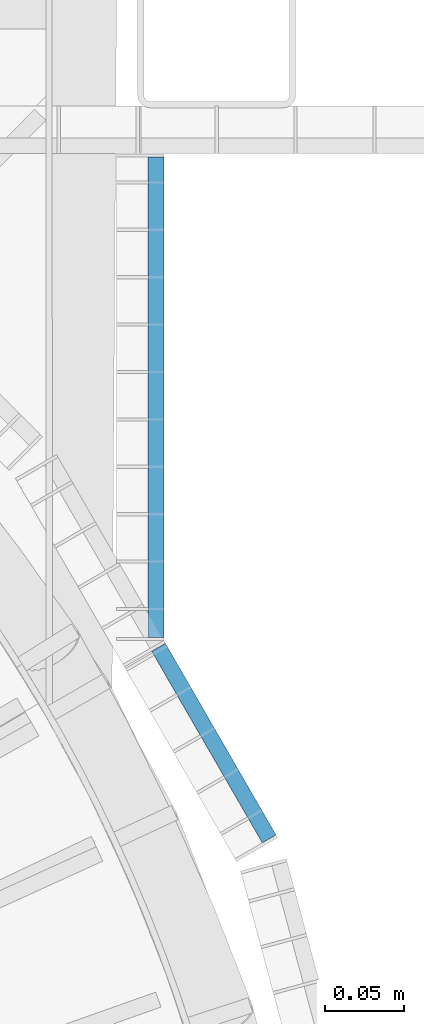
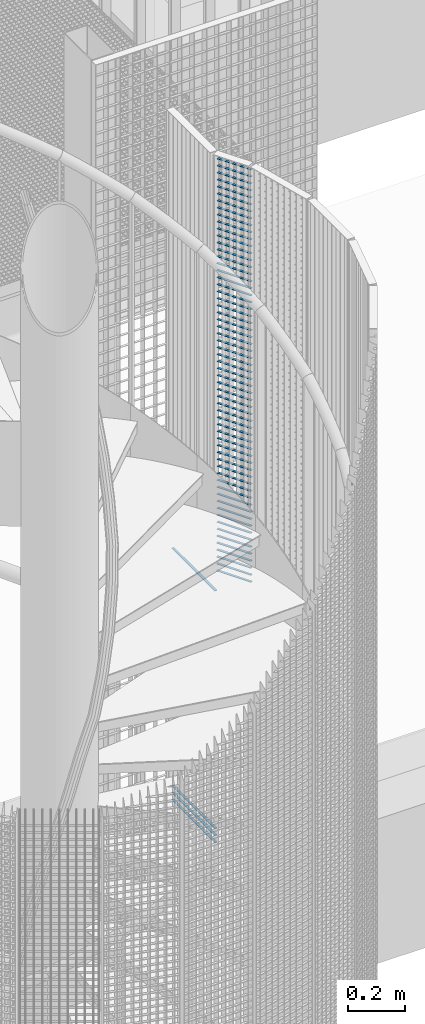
# One storey, part 274 of 1183: 64 beams, 2 elements without a shape of their own.
"""IFC2X3 building model written with IfcOpenShell, lengths in millimetres."""

from ifc_helpers import new_model, si_unit, frame, origin_with_axes, origin_2d_with_axis, place, context, subcontext, project, spatial, rectangle, extrude, material, type_object, element, aggregate, save


model = new_model("IFC2X3")

# Units and contexts
model_context = context("Model", 3, precision=1e-05, world=origin_with_axes())
body_context = subcontext(model_context, "Body", "Model", "MODEL_VIEW")
ifc_project = project(units=[si_unit("LENGTHUNIT", "METRE", prefix="MILLI"), si_unit("AREAUNIT", "SQUARE_METRE"), si_unit("VOLUMEUNIT", "CUBIC_METRE"), si_unit("MASSUNIT", "GRAM", prefix="KILO"), si_unit("TIMEUNIT", "SECOND"), si_unit("PLANEANGLEUNIT", "RADIAN"), si_unit("SOLIDANGLEUNIT", "STERADIAN"), si_unit("THERMODYNAMICTEMPERATUREUNIT", "DEGREE_CELSIUS"), si_unit("LUMINOUSINTENSITYUNIT", "LUMEN")], contexts=[model_context])

# Site, building, storey
site_placement = place(None, origin_with_axes())
site = spatial("IfcSite", under=ifc_project, at=site_placement, Name="Undefined", CompositionType="ELEMENT")
building_placement = place(site_placement, origin_with_axes())
building = spatial("IfcBuilding", under=site, at=building_placement, Name="Undefined", CompositionType="ELEMENT")
storey_placement = place(building_placement, origin_with_axes())
storey = spatial("IfcBuildingStorey", under=building, at=storey_placement, Name="Undefined", CompositionType="ELEMENT", Elevation=0.0)

# Assembly, beams
assembly_1_placement = place(storey_placement, origin_with_axes())
assembly_1 = element("IfcElementAssembly", 1, at=assembly_1_placement, inside=storey, Name="BORDURE", AssemblyPlace="NOTDEFINED", PredefinedType="NOTDEFINED")
ifc_material = material(Name="STEEL/S235JR")
beam_type = type_object("IfcBeamType", Name="PL2*10", PredefinedType="NOTDEFINED")
beam_1_placement = place(assembly_1_placement, frame((961.586915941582, 564.78266928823, 15090.0), z_axis=(1.0, 0.0, 0.0), x_axis=(0.0, 1.0, 0.0)))
beam_1 = element("IfcBeam", 2, at=beam_1_placement, type_object=beam_type, material=ifc_material, Name="ENTRETOISE", context=body_context, shape_type="SweptSolid", body=[
    extrude(rectangle(XDim=2.0, YDim=10.0, at=origin_2d_with_axis()), frame((303.999999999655, 0.0, 0.0), z_axis=(-1.0, 0.0, 0.0), x_axis=(0.0, -1.0, 0.0)), (0.0, 0.0, 1.0), 304.0),
])
beam_2_placement = place(assembly_1_placement, frame((961.586915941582, 564.78266928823, 15060.0), z_axis=(1.0, 0.0, 0.0), x_axis=(0.0, 1.0, 0.0)))
beam_2 = element("IfcBeam", 3, at=beam_2_placement, type_object=beam_type, material=ifc_material, Name="ENTRETOISE", context=body_context, shape_type="SweptSolid", body=[
    extrude(rectangle(XDim=2.0, YDim=10.0, at=origin_2d_with_axis()), frame((303.999999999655, 0.0, 0.0), z_axis=(-1.0, 0.0, 0.0), x_axis=(0.0, -1.0, 0.0)), (0.0, 0.0, 1.0), 304.0),
])
beam_3_placement = place(assembly_1_placement, frame((961.586915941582, 564.782669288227, 16110.0), z_axis=(1.0, 0.0, 0.0), x_axis=(0.0, 1.0, 0.0)))
beam_3 = element("IfcBeam", 4, at=beam_3_placement, type_object=beam_type, material=ifc_material, Name="ENTRETOISE", context=body_context, shape_type="SweptSolid", body=[
    extrude(rectangle(XDim=2.0, YDim=10.0, at=origin_2d_with_axis()), frame((303.999999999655, 0.0, 0.0), z_axis=(-1.0, 0.0, 0.0), x_axis=(0.0, -1.0, 0.0)), (0.0, 0.0, 1.0), 304.0),
])
beam_4_placement = place(assembly_1_placement, frame((961.586915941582, 564.782669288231, 15030.0), z_axis=(1.0, 0.0, 0.0), x_axis=(0.0, 1.0, 0.0)))
beam_4 = element("IfcBeam", 5, at=beam_4_placement, type_object=beam_type, material=ifc_material, Name="ENTRETOISE", context=body_context, shape_type="SweptSolid", body=[
    extrude(rectangle(XDim=2.0, YDim=10.0, at=origin_2d_with_axis()), frame((303.999999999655, 0.0, 0.0), z_axis=(-1.0, 0.0, 0.0), x_axis=(0.0, -1.0, 0.0)), (0.0, 0.0, 1.0), 304.0),
])
aggregate(assembly_1, [beam_1, beam_2, beam_3, beam_4])

assembly_2_placement = place(storey_placement, origin_with_axes())
assembly_2 = element("IfcElementAssembly", 6, at=assembly_2_placement, inside=storey, Name="BORDURE", AssemblyPlace="NOTDEFINED", PredefinedType="NOTDEFINED")
beam_5_placement = place(assembly_2_placement, frame((1033.29994283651, 437.231999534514, 17970.0), z_axis=(0.866030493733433, 0.499991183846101, 0.0), x_axis=(-0.499991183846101, 0.866030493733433, 0.0)))
beam_5 = element("IfcBeam", 7, at=beam_5_placement, type_object=beam_type, material=ifc_material, Name="ENTRETOISE", context=body_context, shape_type="SweptSolid", body=[
    extrude(rectangle(XDim=2.0, YDim=10.0, at=origin_2d_with_axis()), frame((140.102470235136, 0.0, 0.0), z_axis=(-1.0, 0.0, 0.0), x_axis=(0.0, -1.0, 0.0)), (0.0, 0.0, 1.0), 140.1),
])
beam_6_placement = place(assembly_2_placement, frame((1033.29994283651, 437.231999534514, 17940.0), z_axis=(0.866030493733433, 0.499991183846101, 0.0), x_axis=(-0.499991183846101, 0.866030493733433, 0.0)))
beam_6 = element("IfcBeam", 8, at=beam_6_placement, type_object=beam_type, material=ifc_material, Name="ENTRETOISE", context=body_context, shape_type="SweptSolid", body=[
    extrude(rectangle(XDim=2.0, YDim=10.0, at=origin_2d_with_axis()), frame((140.102470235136, 0.0, 0.0), z_axis=(-1.0, 0.0, 0.0), x_axis=(0.0, -1.0, 0.0)), (0.0, 0.0, 1.0), 140.1),
])
beam_7_placement = place(assembly_2_placement, frame((1033.29994283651, 437.231999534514, 17910.0), z_axis=(0.866030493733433, 0.499991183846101, 0.0), x_axis=(-0.499991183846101, 0.866030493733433, 0.0)))
beam_7 = element("IfcBeam", 9, at=beam_7_placement, type_object=beam_type, material=ifc_material, Name="ENTRETOISE", context=body_context, shape_type="SweptSolid", body=[
    extrude(rectangle(XDim=2.0, YDim=10.0, at=origin_2d_with_axis()), frame((140.102470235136, 0.0, 0.0), z_axis=(-1.0, 0.0, 0.0), x_axis=(0.0, -1.0, 0.0)), (0.0, 0.0, 1.0), 140.1),
])
beam_8_placement = place(assembly_2_placement, frame((1033.29994283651, 437.231999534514, 17880.0), z_axis=(0.866030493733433, 0.499991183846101, 0.0), x_axis=(-0.499991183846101, 0.866030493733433, 0.0)))
beam_8 = element("IfcBeam", 10, at=beam_8_placement, type_object=beam_type, material=ifc_material, Name="ENTRETOISE", context=body_context, shape_type="SweptSolid", body=[
    extrude(rectangle(XDim=2.0, YDim=10.0, at=origin_2d_with_axis()), frame((140.102470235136, 0.0, 0.0), z_axis=(-1.0, 0.0, 0.0), x_axis=(0.0, -1.0, 0.0)), (0.0, 0.0, 1.0), 140.1),
])
beam_9_placement = place(assembly_2_placement, frame((1033.29994283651, 437.231999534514, 17850.0), z_axis=(0.866030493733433, 0.499991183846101, 0.0), x_axis=(-0.499991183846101, 0.866030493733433, 0.0)))
beam_9 = element("IfcBeam", 11, at=beam_9_placement, type_object=beam_type, material=ifc_material, Name="ENTRETOISE", context=body_context, shape_type="SweptSolid", body=[
    extrude(rectangle(XDim=2.0, YDim=10.0, at=origin_2d_with_axis()), frame((140.102470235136, 0.0, 0.0), z_axis=(-1.0, 0.0, 0.0), x_axis=(0.0, -1.0, 0.0)), (0.0, 0.0, 1.0), 140.1),
])
beam_10_placement = place(assembly_2_placement, frame((1033.29994283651, 437.231999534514, 17820.0), z_axis=(0.866030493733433, 0.499991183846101, 0.0), x_axis=(-0.499991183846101, 0.866030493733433, 0.0)))
beam_10 = element("IfcBeam", 12, at=beam_10_placement, type_object=beam_type, material=ifc_material, Name="ENTRETOISE", context=body_context, shape_type="SweptSolid", body=[
    extrude(rectangle(XDim=2.0, YDim=10.0, at=origin_2d_with_axis()), frame((140.102470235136, 0.0, 0.0), z_axis=(-1.0, 0.0, 0.0), x_axis=(0.0, -1.0, 0.0)), (0.0, 0.0, 1.0), 140.1),
])
beam_11_placement = place(assembly_2_placement, frame((1033.29994283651, 437.231999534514, 17790.0), z_axis=(0.866030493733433, 0.499991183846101, 0.0), x_axis=(-0.499991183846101, 0.866030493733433, 0.0)))
beam_11 = element("IfcBeam", 13, at=beam_11_placement, type_object=beam_type, material=ifc_material, Name="ENTRETOISE", context=body_context, shape_type="SweptSolid", body=[
    extrude(rectangle(XDim=2.0, YDim=10.0, at=origin_2d_with_axis()), frame((140.102470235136, 0.0, 0.0), z_axis=(-1.0, 0.0, 0.0), x_axis=(0.0, -1.0, 0.0)), (0.0, 0.0, 1.0), 140.1),
])
beam_12_placement = place(assembly_2_placement, frame((1033.29994283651, 437.231999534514, 17760.0), z_axis=(0.866030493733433, 0.499991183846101, 0.0), x_axis=(-0.499991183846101, 0.866030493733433, 0.0)))
beam_12 = element("IfcBeam", 14, at=beam_12_placement, type_object=beam_type, material=ifc_material, Name="ENTRETOISE", context=body_context, shape_type="SweptSolid", body=[
    extrude(rectangle(XDim=2.0, YDim=10.0, at=origin_2d_with_axis()), frame((140.102470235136, 0.0, 0.0), z_axis=(-1.0, 0.0, 0.0), x_axis=(0.0, -1.0, 0.0)), (0.0, 0.0, 1.0), 140.1),
])
beam_13_placement = place(assembly_2_placement, frame((1033.29994283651, 437.231999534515, 17730.0), z_axis=(0.866030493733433, 0.499991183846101, 0.0), x_axis=(-0.499991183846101, 0.866030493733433, 0.0)))
beam_13 = element("IfcBeam", 15, at=beam_13_placement, type_object=beam_type, material=ifc_material, Name="ENTRETOISE", context=body_context, shape_type="SweptSolid", body=[
    extrude(rectangle(XDim=2.0, YDim=10.0, at=origin_2d_with_axis()), frame((140.102470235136, 0.0, 0.0), z_axis=(-1.0, 0.0, 0.0), x_axis=(0.0, -1.0, 0.0)), (0.0, 0.0, 1.0), 140.1),
])
beam_14_placement = place(assembly_2_placement, frame((1033.29994283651, 437.231999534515, 17700.0), z_axis=(0.866030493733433, 0.499991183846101, 0.0), x_axis=(-0.499991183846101, 0.866030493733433, 0.0)))
beam_14 = element("IfcBeam", 16, at=beam_14_placement, type_object=beam_type, material=ifc_material, Name="ENTRETOISE", context=body_context, shape_type="SweptSolid", body=[
    extrude(rectangle(XDim=2.0, YDim=10.0, at=origin_2d_with_axis()), frame((140.102470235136, 0.0, 0.0), z_axis=(-1.0, 0.0, 0.0), x_axis=(0.0, -1.0, 0.0)), (0.0, 0.0, 1.0), 140.1),
])
beam_15_placement = place(assembly_2_placement, frame((1033.29994283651, 437.231999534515, 17670.0), z_axis=(0.866030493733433, 0.499991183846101, 0.0), x_axis=(-0.499991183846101, 0.866030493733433, 0.0)))
beam_15 = element("IfcBeam", 17, at=beam_15_placement, type_object=beam_type, material=ifc_material, Name="ENTRETOISE", context=body_context, shape_type="SweptSolid", body=[
    extrude(rectangle(XDim=2.0, YDim=10.0, at=origin_2d_with_axis()), frame((140.102470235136, 0.0, 0.0), z_axis=(-1.0, 0.0, 0.0), x_axis=(0.0, -1.0, 0.0)), (0.0, 0.0, 1.0), 140.1),
])
beam_16_placement = place(assembly_2_placement, frame((1033.29994283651, 437.231999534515, 17640.0), z_axis=(0.866030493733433, 0.499991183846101, 0.0), x_axis=(-0.499991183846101, 0.866030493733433, 0.0)))
beam_16 = element("IfcBeam", 18, at=beam_16_placement, type_object=beam_type, material=ifc_material, Name="ENTRETOISE", context=body_context, shape_type="SweptSolid", body=[
    extrude(rectangle(XDim=2.0, YDim=10.0, at=origin_2d_with_axis()), frame((140.102470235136, 0.0, 0.0), z_axis=(-1.0, 0.0, 0.0), x_axis=(0.0, -1.0, 0.0)), (0.0, 0.0, 1.0), 140.1),
])
beam_17_placement = place(assembly_2_placement, frame((1033.29994283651, 437.231999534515, 17610.0), z_axis=(0.866030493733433, 0.499991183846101, 0.0), x_axis=(-0.499991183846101, 0.866030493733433, 0.0)))
beam_17 = element("IfcBeam", 19, at=beam_17_placement, type_object=beam_type, material=ifc_material, Name="ENTRETOISE", context=body_context, shape_type="SweptSolid", body=[
    extrude(rectangle(XDim=2.0, YDim=10.0, at=origin_2d_with_axis()), frame((140.102470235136, 0.0, 0.0), z_axis=(-1.0, 0.0, 0.0), x_axis=(0.0, -1.0, 0.0)), (0.0, 0.0, 1.0), 140.1),
])
beam_18_placement = place(assembly_2_placement, frame((1033.29994283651, 437.231999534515, 17580.0), z_axis=(0.866030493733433, 0.499991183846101, 0.0), x_axis=(-0.499991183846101, 0.866030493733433, 0.0)))
beam_18 = element("IfcBeam", 20, at=beam_18_placement, type_object=beam_type, material=ifc_material, Name="ENTRETOISE", context=body_context, shape_type="SweptSolid", body=[
    extrude(rectangle(XDim=2.0, YDim=10.0, at=origin_2d_with_axis()), frame((140.102470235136, 0.0, 0.0), z_axis=(-1.0, 0.0, 0.0), x_axis=(0.0, -1.0, 0.0)), (0.0, 0.0, 1.0), 140.1),
])
beam_19_placement = place(assembly_2_placement, frame((1033.29994283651, 437.231999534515, 17550.0), z_axis=(0.866030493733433, 0.499991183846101, 0.0), x_axis=(-0.499991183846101, 0.866030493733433, 0.0)))
beam_19 = element("IfcBeam", 21, at=beam_19_placement, type_object=beam_type, material=ifc_material, Name="ENTRETOISE", context=body_context, shape_type="SweptSolid", body=[
    extrude(rectangle(XDim=2.0, YDim=10.0, at=origin_2d_with_axis()), frame((140.102470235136, 0.0, 0.0), z_axis=(-1.0, 0.0, 0.0), x_axis=(0.0, -1.0, 0.0)), (0.0, 0.0, 1.0), 140.1),
])
beam_20_placement = place(assembly_2_placement, frame((1033.29994283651, 437.231999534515, 17520.0), z_axis=(0.866030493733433, 0.499991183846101, 0.0), x_axis=(-0.499991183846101, 0.866030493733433, 0.0)))
beam_20 = element("IfcBeam", 22, at=beam_20_placement, type_object=beam_type, material=ifc_material, Name="ENTRETOISE", context=body_context, shape_type="SweptSolid", body=[
    extrude(rectangle(XDim=2.0, YDim=10.0, at=origin_2d_with_axis()), frame((140.102470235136, 0.0, 0.0), z_axis=(-1.0, 0.0, 0.0), x_axis=(0.0, -1.0, 0.0)), (0.0, 0.0, 1.0), 140.1),
])
beam_21_placement = place(assembly_2_placement, frame((1033.29994283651, 437.231999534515, 17490.0), z_axis=(0.866030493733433, 0.499991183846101, 0.0), x_axis=(-0.499991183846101, 0.866030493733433, 0.0)))
beam_21 = element("IfcBeam", 23, at=beam_21_placement, type_object=beam_type, material=ifc_material, Name="ENTRETOISE", context=body_context, shape_type="SweptSolid", body=[
    extrude(rectangle(XDim=2.0, YDim=10.0, at=origin_2d_with_axis()), frame((140.102470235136, 0.0, 0.0), z_axis=(-1.0, 0.0, 0.0), x_axis=(0.0, -1.0, 0.0)), (0.0, 0.0, 1.0), 140.1),
])
beam_22_placement = place(assembly_2_placement, frame((1033.29994283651, 437.231999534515, 17460.0), z_axis=(0.866030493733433, 0.499991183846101, 0.0), x_axis=(-0.499991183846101, 0.866030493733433, 0.0)))
beam_22 = element("IfcBeam", 24, at=beam_22_placement, type_object=beam_type, material=ifc_material, Name="ENTRETOISE", context=body_context, shape_type="SweptSolid", body=[
    extrude(rectangle(XDim=2.0, YDim=10.0, at=origin_2d_with_axis()), frame((140.102470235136, 0.0, 0.0), z_axis=(-1.0, 0.0, 0.0), x_axis=(0.0, -1.0, 0.0)), (0.0, 0.0, 1.0), 140.1),
])
beam_23_placement = place(assembly_2_placement, frame((1033.29994283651, 437.231999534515, 17430.0), z_axis=(0.866030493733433, 0.499991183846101, 0.0), x_axis=(-0.499991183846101, 0.866030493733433, 0.0)))
beam_23 = element("IfcBeam", 25, at=beam_23_placement, type_object=beam_type, material=ifc_material, Name="ENTRETOISE", context=body_context, shape_type="SweptSolid", body=[
    extrude(rectangle(XDim=2.0, YDim=10.0, at=origin_2d_with_axis()), frame((140.102470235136, 0.0, 0.0), z_axis=(-1.0, 0.0, 0.0), x_axis=(0.0, -1.0, 0.0)), (0.0, 0.0, 1.0), 140.1),
])
beam_24_placement = place(assembly_2_placement, frame((1033.29994283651, 437.231999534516, 17400.0), z_axis=(0.866030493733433, 0.499991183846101, 0.0), x_axis=(-0.499991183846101, 0.866030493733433, 0.0)))
beam_24 = element("IfcBeam", 26, at=beam_24_placement, type_object=beam_type, material=ifc_material, Name="ENTRETOISE", context=body_context, shape_type="SweptSolid", body=[
    extrude(rectangle(XDim=2.0, YDim=10.0, at=origin_2d_with_axis()), frame((140.102470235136, 0.0, 0.0), z_axis=(-1.0, 0.0, 0.0), x_axis=(0.0, -1.0, 0.0)), (0.0, 0.0, 1.0), 140.1),
])
beam_25_placement = place(assembly_2_placement, frame((1033.29994283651, 437.231999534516, 17370.0), z_axis=(0.866030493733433, 0.499991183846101, 0.0), x_axis=(-0.499991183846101, 0.866030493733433, 0.0)))
beam_25 = element("IfcBeam", 27, at=beam_25_placement, type_object=beam_type, material=ifc_material, Name="ENTRETOISE", context=body_context, shape_type="SweptSolid", body=[
    extrude(rectangle(XDim=2.0, YDim=10.0, at=origin_2d_with_axis()), frame((140.102470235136, 0.0, 0.0), z_axis=(-1.0, 0.0, 0.0), x_axis=(0.0, -1.0, 0.0)), (0.0, 0.0, 1.0), 140.1),
])
beam_26_placement = place(assembly_2_placement, frame((1033.29994283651, 437.231999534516, 17340.0), z_axis=(0.866030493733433, 0.499991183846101, 0.0), x_axis=(-0.499991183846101, 0.866030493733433, 0.0)))
beam_26 = element("IfcBeam", 28, at=beam_26_placement, type_object=beam_type, material=ifc_material, Name="ENTRETOISE", context=body_context, shape_type="SweptSolid", body=[
    extrude(rectangle(XDim=2.0, YDim=10.0, at=origin_2d_with_axis()), frame((140.102470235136, 0.0, 0.0), z_axis=(-1.0, 0.0, 0.0), x_axis=(0.0, -1.0, 0.0)), (0.0, 0.0, 1.0), 140.1),
])
beam_27_placement = place(assembly_2_placement, frame((1033.29994283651, 437.231999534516, 17310.0), z_axis=(0.866030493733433, 0.499991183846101, 0.0), x_axis=(-0.499991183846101, 0.866030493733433, 0.0)))
beam_27 = element("IfcBeam", 29, at=beam_27_placement, type_object=beam_type, material=ifc_material, Name="ENTRETOISE", context=body_context, shape_type="SweptSolid", body=[
    extrude(rectangle(XDim=2.0, YDim=10.0, at=origin_2d_with_axis()), frame((140.102470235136, 0.0, 0.0), z_axis=(-1.0, 0.0, 0.0), x_axis=(0.0, -1.0, 0.0)), (0.0, 0.0, 1.0), 140.1),
])
beam_28_placement = place(assembly_2_placement, frame((1033.29994283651, 437.231999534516, 17280.0), z_axis=(0.866030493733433, 0.499991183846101, 0.0), x_axis=(-0.499991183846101, 0.866030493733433, 0.0)))
beam_28 = element("IfcBeam", 30, at=beam_28_placement, type_object=beam_type, material=ifc_material, Name="ENTRETOISE", context=body_context, shape_type="SweptSolid", body=[
    extrude(rectangle(XDim=2.0, YDim=10.0, at=origin_2d_with_axis()), frame((140.102470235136, 0.0, 0.0), z_axis=(-1.0, 0.0, 0.0), x_axis=(0.0, -1.0, 0.0)), (0.0, 0.0, 1.0), 140.1),
])
beam_29_placement = place(assembly_2_placement, frame((1033.29994283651, 437.231999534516, 17250.0), z_axis=(0.866030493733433, 0.499991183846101, 0.0), x_axis=(-0.499991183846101, 0.866030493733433, 0.0)))
beam_29 = element("IfcBeam", 31, at=beam_29_placement, type_object=beam_type, material=ifc_material, Name="ENTRETOISE", context=body_context, shape_type="SweptSolid", body=[
    extrude(rectangle(XDim=2.0, YDim=10.0, at=origin_2d_with_axis()), frame((140.102470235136, 0.0, 0.0), z_axis=(-1.0, 0.0, 0.0), x_axis=(0.0, -1.0, 0.0)), (0.0, 0.0, 1.0), 140.1),
])
beam_30_placement = place(assembly_2_placement, frame((1033.29994283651, 437.231999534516, 17220.0), z_axis=(0.866030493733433, 0.499991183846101, 0.0), x_axis=(-0.499991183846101, 0.866030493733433, 0.0)))
beam_30 = element("IfcBeam", 32, at=beam_30_placement, type_object=beam_type, material=ifc_material, Name="ENTRETOISE", context=body_context, shape_type="SweptSolid", body=[
    extrude(rectangle(XDim=2.0, YDim=10.0, at=origin_2d_with_axis()), frame((140.102470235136, 0.0, 0.0), z_axis=(-1.0, 0.0, 0.0), x_axis=(0.0, -1.0, 0.0)), (0.0, 0.0, 1.0), 140.1),
])
beam_31_placement = place(assembly_2_placement, frame((1033.29994283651, 437.231999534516, 17190.0), z_axis=(0.866030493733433, 0.499991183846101, 0.0), x_axis=(-0.499991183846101, 0.866030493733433, 0.0)))
beam_31 = element("IfcBeam", 33, at=beam_31_placement, type_object=beam_type, material=ifc_material, Name="ENTRETOISE", context=body_context, shape_type="SweptSolid", body=[
    extrude(rectangle(XDim=2.0, YDim=10.0, at=origin_2d_with_axis()), frame((140.102470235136, 0.0, 0.0), z_axis=(-1.0, 0.0, 0.0), x_axis=(0.0, -1.0, 0.0)), (0.0, 0.0, 1.0), 140.1),
])
beam_32_placement = place(assembly_2_placement, frame((1033.29994283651, 437.231999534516, 17160.0), z_axis=(0.866030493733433, 0.499991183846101, 0.0), x_axis=(-0.499991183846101, 0.866030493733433, 0.0)))
beam_32 = element("IfcBeam", 34, at=beam_32_placement, type_object=beam_type, material=ifc_material, Name="ENTRETOISE", context=body_context, shape_type="SweptSolid", body=[
    extrude(rectangle(XDim=2.0, YDim=10.0, at=origin_2d_with_axis()), frame((140.102470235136, 0.0, 0.0), z_axis=(-1.0, 0.0, 0.0), x_axis=(0.0, -1.0, 0.0)), (0.0, 0.0, 1.0), 140.1),
])
beam_33_placement = place(assembly_2_placement, frame((1033.29994283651, 437.231999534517, 17130.0), z_axis=(0.866030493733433, 0.499991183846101, 0.0), x_axis=(-0.499991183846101, 0.866030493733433, 0.0)))
beam_33 = element("IfcBeam", 35, at=beam_33_placement, type_object=beam_type, material=ifc_material, Name="ENTRETOISE", context=body_context, shape_type="SweptSolid", body=[
    extrude(rectangle(XDim=2.0, YDim=10.0, at=origin_2d_with_axis()), frame((140.102470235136, 0.0, 0.0), z_axis=(-1.0, 0.0, 0.0), x_axis=(0.0, -1.0, 0.0)), (0.0, 0.0, 1.0), 140.1),
])
beam_34_placement = place(assembly_2_placement, frame((1033.29994283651, 437.231999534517, 17100.0), z_axis=(0.866030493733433, 0.499991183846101, 0.0), x_axis=(-0.499991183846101, 0.866030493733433, 0.0)))
beam_34 = element("IfcBeam", 36, at=beam_34_placement, type_object=beam_type, material=ifc_material, Name="ENTRETOISE", context=body_context, shape_type="SweptSolid", body=[
    extrude(rectangle(XDim=2.0, YDim=10.0, at=origin_2d_with_axis()), frame((140.102470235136, 0.0, 0.0), z_axis=(-1.0, 0.0, 0.0), x_axis=(0.0, -1.0, 0.0)), (0.0, 0.0, 1.0), 140.1),
])
beam_35_placement = place(assembly_2_placement, frame((1033.29994283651, 437.231999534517, 17070.0), z_axis=(0.866030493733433, 0.499991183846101, 0.0), x_axis=(-0.499991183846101, 0.866030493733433, 0.0)))
beam_35 = element("IfcBeam", 37, at=beam_35_placement, type_object=beam_type, material=ifc_material, Name="ENTRETOISE", context=body_context, shape_type="SweptSolid", body=[
    extrude(rectangle(XDim=2.0, YDim=10.0, at=origin_2d_with_axis()), frame((140.102470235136, 0.0, 0.0), z_axis=(-1.0, 0.0, 0.0), x_axis=(0.0, -1.0, 0.0)), (0.0, 0.0, 1.0), 140.1),
])
beam_36_placement = place(assembly_2_placement, frame((1033.29994283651, 437.231999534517, 17040.0), z_axis=(0.866030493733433, 0.499991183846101, 0.0), x_axis=(-0.499991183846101, 0.866030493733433, 0.0)))
beam_36 = element("IfcBeam", 38, at=beam_36_placement, type_object=beam_type, material=ifc_material, Name="ENTRETOISE", context=body_context, shape_type="SweptSolid", body=[
    extrude(rectangle(XDim=2.0, YDim=10.0, at=origin_2d_with_axis()), frame((140.102470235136, 0.0, 0.0), z_axis=(-1.0, 0.0, 0.0), x_axis=(0.0, -1.0, 0.0)), (0.0, 0.0, 1.0), 140.1),
])
beam_37_placement = place(assembly_2_placement, frame((1033.29994283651, 437.231999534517, 17010.0), z_axis=(0.866030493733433, 0.499991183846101, 0.0), x_axis=(-0.499991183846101, 0.866030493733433, 0.0)))
beam_37 = element("IfcBeam", 39, at=beam_37_placement, type_object=beam_type, material=ifc_material, Name="ENTRETOISE", context=body_context, shape_type="SweptSolid", body=[
    extrude(rectangle(XDim=2.0, YDim=10.0, at=origin_2d_with_axis()), frame((140.102470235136, 0.0, 0.0), z_axis=(-1.0, 0.0, 0.0), x_axis=(0.0, -1.0, 0.0)), (0.0, 0.0, 1.0), 140.1),
])
beam_38_placement = place(assembly_2_placement, frame((1033.29994283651, 437.231999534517, 16980.0), z_axis=(0.866030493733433, 0.499991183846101, 0.0), x_axis=(-0.499991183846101, 0.866030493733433, 0.0)))
beam_38 = element("IfcBeam", 40, at=beam_38_placement, type_object=beam_type, material=ifc_material, Name="ENTRETOISE", context=body_context, shape_type="SweptSolid", body=[
    extrude(rectangle(XDim=2.0, YDim=10.0, at=origin_2d_with_axis()), frame((140.102470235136, 0.0, 0.0), z_axis=(-1.0, 0.0, 0.0), x_axis=(0.0, -1.0, 0.0)), (0.0, 0.0, 1.0), 140.1),
])
beam_39_placement = place(assembly_2_placement, frame((1033.29994283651, 437.231999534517, 16950.0), z_axis=(0.866030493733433, 0.499991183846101, 0.0), x_axis=(-0.499991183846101, 0.866030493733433, 0.0)))
beam_39 = element("IfcBeam", 41, at=beam_39_placement, type_object=beam_type, material=ifc_material, Name="ENTRETOISE", context=body_context, shape_type="SweptSolid", body=[
    extrude(rectangle(XDim=2.0, YDim=10.0, at=origin_2d_with_axis()), frame((140.102470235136, 0.0, 0.0), z_axis=(-1.0, 0.0, 0.0), x_axis=(0.0, -1.0, 0.0)), (0.0, 0.0, 1.0), 140.1),
])
beam_40_placement = place(assembly_2_placement, frame((1033.29994283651, 437.231999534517, 16920.0), z_axis=(0.866030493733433, 0.499991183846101, 0.0), x_axis=(-0.499991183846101, 0.866030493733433, 0.0)))
beam_40 = element("IfcBeam", 42, at=beam_40_placement, type_object=beam_type, material=ifc_material, Name="ENTRETOISE", context=body_context, shape_type="SweptSolid", body=[
    extrude(rectangle(XDim=2.0, YDim=10.0, at=origin_2d_with_axis()), frame((140.102470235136, 0.0, 0.0), z_axis=(-1.0, 0.0, 0.0), x_axis=(0.0, -1.0, 0.0)), (0.0, 0.0, 1.0), 140.1),
])
beam_41_placement = place(assembly_2_placement, frame((1033.29994283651, 437.231999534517, 16890.0), z_axis=(0.866030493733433, 0.499991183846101, 0.0), x_axis=(-0.499991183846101, 0.866030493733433, 0.0)))
beam_41 = element("IfcBeam", 43, at=beam_41_placement, type_object=beam_type, material=ifc_material, Name="ENTRETOISE", context=body_context, shape_type="SweptSolid", body=[
    extrude(rectangle(XDim=2.0, YDim=10.0, at=origin_2d_with_axis()), frame((140.102470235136, 0.0, 0.0), z_axis=(-1.0, 0.0, 0.0), x_axis=(0.0, -1.0, 0.0)), (0.0, 0.0, 1.0), 140.1),
])
beam_42_placement = place(assembly_2_placement, frame((1033.29994283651, 437.231999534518, 16860.0), z_axis=(0.866030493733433, 0.499991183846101, 0.0), x_axis=(-0.499991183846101, 0.866030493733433, 0.0)))
beam_42 = element("IfcBeam", 44, at=beam_42_placement, type_object=beam_type, material=ifc_material, Name="ENTRETOISE", context=body_context, shape_type="SweptSolid", body=[
    extrude(rectangle(XDim=2.0, YDim=10.0, at=origin_2d_with_axis()), frame((140.102470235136, 0.0, 0.0), z_axis=(-1.0, 0.0, 0.0), x_axis=(0.0, -1.0, 0.0)), (0.0, 0.0, 1.0), 140.1),
])
beam_43_placement = place(assembly_2_placement, frame((1033.29994283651, 437.231999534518, 16830.0), z_axis=(0.866030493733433, 0.499991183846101, 0.0), x_axis=(-0.499991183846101, 0.866030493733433, 0.0)))
beam_43 = element("IfcBeam", 45, at=beam_43_placement, type_object=beam_type, material=ifc_material, Name="ENTRETOISE", context=body_context, shape_type="SweptSolid", body=[
    extrude(rectangle(XDim=2.0, YDim=10.0, at=origin_2d_with_axis()), frame((140.102470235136, 0.0, 0.0), z_axis=(-1.0, 0.0, 0.0), x_axis=(0.0, -1.0, 0.0)), (0.0, 0.0, 1.0), 140.1),
])
beam_44_placement = place(assembly_2_placement, frame((1033.29994283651, 437.231999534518, 16800.0), z_axis=(0.866030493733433, 0.499991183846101, 0.0), x_axis=(-0.499991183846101, 0.866030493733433, 0.0)))
beam_44 = element("IfcBeam", 46, at=beam_44_placement, type_object=beam_type, material=ifc_material, Name="ENTRETOISE", context=body_context, shape_type="SweptSolid", body=[
    extrude(rectangle(XDim=2.0, YDim=10.0, at=origin_2d_with_axis()), frame((140.102470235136, 0.0, 0.0), z_axis=(-1.0, 0.0, 0.0), x_axis=(0.0, -1.0, 0.0)), (0.0, 0.0, 1.0), 140.1),
])
beam_45_placement = place(assembly_2_placement, frame((1033.29994283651, 437.231999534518, 16770.0), z_axis=(0.866030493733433, 0.499991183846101, 0.0), x_axis=(-0.499991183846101, 0.866030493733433, 0.0)))
beam_45 = element("IfcBeam", 47, at=beam_45_placement, type_object=beam_type, material=ifc_material, Name="ENTRETOISE", context=body_context, shape_type="SweptSolid", body=[
    extrude(rectangle(XDim=2.0, YDim=10.0, at=origin_2d_with_axis()), frame((140.102470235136, 0.0, 0.0), z_axis=(-1.0, 0.0, 0.0), x_axis=(0.0, -1.0, 0.0)), (0.0, 0.0, 1.0), 140.1),
])
beam_46_placement = place(assembly_2_placement, frame((1033.29994283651, 437.231999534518, 16740.0), z_axis=(0.866030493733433, 0.499991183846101, 0.0), x_axis=(-0.499991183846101, 0.866030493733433, 0.0)))
beam_46 = element("IfcBeam", 48, at=beam_46_placement, type_object=beam_type, material=ifc_material, Name="ENTRETOISE", context=body_context, shape_type="SweptSolid", body=[
    extrude(rectangle(XDim=2.0, YDim=10.0, at=origin_2d_with_axis()), frame((140.102470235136, 0.0, 0.0), z_axis=(-1.0, 0.0, 0.0), x_axis=(0.0, -1.0, 0.0)), (0.0, 0.0, 1.0), 140.1),
])
beam_47_placement = place(assembly_2_placement, frame((1033.29994283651, 437.231999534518, 16710.0), z_axis=(0.866030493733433, 0.499991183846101, 0.0), x_axis=(-0.499991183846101, 0.866030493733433, 0.0)))
beam_47 = element("IfcBeam", 49, at=beam_47_placement, type_object=beam_type, material=ifc_material, Name="ENTRETOISE", context=body_context, shape_type="SweptSolid", body=[
    extrude(rectangle(XDim=2.0, YDim=10.0, at=origin_2d_with_axis()), frame((140.102470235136, 0.0, 0.0), z_axis=(-1.0, 0.0, 0.0), x_axis=(0.0, -1.0, 0.0)), (0.0, 0.0, 1.0), 140.1),
])
beam_48_placement = place(assembly_2_placement, frame((1033.29994283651, 437.231999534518, 16680.0), z_axis=(0.866030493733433, 0.499991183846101, 0.0), x_axis=(-0.499991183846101, 0.866030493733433, 0.0)))
beam_48 = element("IfcBeam", 50, at=beam_48_placement, type_object=beam_type, material=ifc_material, Name="ENTRETOISE", context=body_context, shape_type="SweptSolid", body=[
    extrude(rectangle(XDim=2.0, YDim=10.0, at=origin_2d_with_axis()), frame((140.102470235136, 0.0, 0.0), z_axis=(-1.0, 0.0, 0.0), x_axis=(0.0, -1.0, 0.0)), (0.0, 0.0, 1.0), 140.1),
])
beam_49_placement = place(assembly_2_placement, frame((1033.29994283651, 437.231999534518, 16650.0), z_axis=(0.866030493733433, 0.499991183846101, 0.0), x_axis=(-0.499991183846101, 0.866030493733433, 0.0)))
beam_49 = element("IfcBeam", 51, at=beam_49_placement, type_object=beam_type, material=ifc_material, Name="ENTRETOISE", context=body_context, shape_type="SweptSolid", body=[
    extrude(rectangle(XDim=2.0, YDim=10.0, at=origin_2d_with_axis()), frame((140.102470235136, 0.0, 0.0), z_axis=(-1.0, 0.0, 0.0), x_axis=(0.0, -1.0, 0.0)), (0.0, 0.0, 1.0), 140.1),
])
beam_50_placement = place(assembly_2_placement, frame((1033.29994283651, 437.231999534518, 16620.0), z_axis=(0.866030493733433, 0.499991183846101, 0.0), x_axis=(-0.499991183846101, 0.866030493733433, 0.0)))
beam_50 = element("IfcBeam", 52, at=beam_50_placement, type_object=beam_type, material=ifc_material, Name="ENTRETOISE", context=body_context, shape_type="SweptSolid", body=[
    extrude(rectangle(XDim=2.0, YDim=10.0, at=origin_2d_with_axis()), frame((140.102470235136, 0.0, 0.0), z_axis=(-1.0, 0.0, 0.0), x_axis=(0.0, -1.0, 0.0)), (0.0, 0.0, 1.0), 140.1),
])
beam_51_placement = place(assembly_2_placement, frame((1033.29994283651, 437.231999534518, 16590.0), z_axis=(0.866030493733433, 0.499991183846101, 0.0), x_axis=(-0.499991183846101, 0.866030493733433, 0.0)))
beam_51 = element("IfcBeam", 53, at=beam_51_placement, type_object=beam_type, material=ifc_material, Name="ENTRETOISE", context=body_context, shape_type="SweptSolid", body=[
    extrude(rectangle(XDim=2.0, YDim=10.0, at=origin_2d_with_axis()), frame((140.102470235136, 0.0, 0.0), z_axis=(-1.0, 0.0, 0.0), x_axis=(0.0, -1.0, 0.0)), (0.0, 0.0, 1.0), 140.1),
])
beam_52_placement = place(assembly_2_placement, frame((1033.29994283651, 437.231999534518, 16560.0), z_axis=(0.866030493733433, 0.499991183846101, 0.0), x_axis=(-0.499991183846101, 0.866030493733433, 0.0)))
beam_52 = element("IfcBeam", 54, at=beam_52_placement, type_object=beam_type, material=ifc_material, Name="ENTRETOISE", context=body_context, shape_type="SweptSolid", body=[
    extrude(rectangle(XDim=2.0, YDim=10.0, at=origin_2d_with_axis()), frame((140.102470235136, 0.0, 0.0), z_axis=(-1.0, 0.0, 0.0), x_axis=(0.0, -1.0, 0.0)), (0.0, 0.0, 1.0), 140.1),
])
beam_53_placement = place(assembly_2_placement, frame((1033.29994283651, 437.231999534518, 16530.0), z_axis=(0.866030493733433, 0.499991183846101, 0.0), x_axis=(-0.499991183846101, 0.866030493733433, 0.0)))
beam_53 = element("IfcBeam", 55, at=beam_53_placement, type_object=beam_type, material=ifc_material, Name="ENTRETOISE", context=body_context, shape_type="SweptSolid", body=[
    extrude(rectangle(XDim=2.0, YDim=10.0, at=origin_2d_with_axis()), frame((140.102470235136, 0.0, 0.0), z_axis=(-1.0, 0.0, 0.0), x_axis=(0.0, -1.0, 0.0)), (0.0, 0.0, 1.0), 140.1),
])
beam_54_placement = place(assembly_2_placement, frame((1033.29994283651, 437.231999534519, 16500.0), z_axis=(0.866030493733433, 0.499991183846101, 0.0), x_axis=(-0.499991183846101, 0.866030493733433, 0.0)))
beam_54 = element("IfcBeam", 56, at=beam_54_placement, type_object=beam_type, material=ifc_material, Name="ENTRETOISE", context=body_context, shape_type="SweptSolid", body=[
    extrude(rectangle(XDim=2.0, YDim=10.0, at=origin_2d_with_axis()), frame((140.102470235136, 0.0, 0.0), z_axis=(-1.0, 0.0, 0.0), x_axis=(0.0, -1.0, 0.0)), (0.0, 0.0, 1.0), 140.1),
])
beam_55_placement = place(assembly_2_placement, frame((1033.29994283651, 437.231999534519, 16470.0), z_axis=(0.866030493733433, 0.499991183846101, 0.0), x_axis=(-0.499991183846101, 0.866030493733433, 0.0)))
beam_55 = element("IfcBeam", 57, at=beam_55_placement, type_object=beam_type, material=ifc_material, Name="ENTRETOISE", context=body_context, shape_type="SweptSolid", body=[
    extrude(rectangle(XDim=2.0, YDim=10.0, at=origin_2d_with_axis()), frame((140.102470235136, 0.0, 0.0), z_axis=(-1.0, 0.0, 0.0), x_axis=(0.0, -1.0, 0.0)), (0.0, 0.0, 1.0), 140.1),
])
beam_56_placement = place(assembly_2_placement, frame((1033.29994283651, 437.231999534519, 16440.0), z_axis=(0.866030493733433, 0.499991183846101, 0.0), x_axis=(-0.499991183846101, 0.866030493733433, 0.0)))
beam_56 = element("IfcBeam", 58, at=beam_56_placement, type_object=beam_type, material=ifc_material, Name="ENTRETOISE", context=body_context, shape_type="SweptSolid", body=[
    extrude(rectangle(XDim=2.0, YDim=10.0, at=origin_2d_with_axis()), frame((140.102470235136, 0.0, 0.0), z_axis=(-1.0, 0.0, 0.0), x_axis=(0.0, -1.0, 0.0)), (0.0, 0.0, 1.0), 140.1),
])
beam_57_placement = place(assembly_2_placement, frame((1033.29994283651, 437.231999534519, 16410.0), z_axis=(0.866030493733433, 0.499991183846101, 0.0), x_axis=(-0.499991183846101, 0.866030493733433, 0.0)))
beam_57 = element("IfcBeam", 59, at=beam_57_placement, type_object=beam_type, material=ifc_material, Name="ENTRETOISE", context=body_context, shape_type="SweptSolid", body=[
    extrude(rectangle(XDim=2.0, YDim=10.0, at=origin_2d_with_axis()), frame((140.102470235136, 0.0, 0.0), z_axis=(-1.0, 0.0, 0.0), x_axis=(0.0, -1.0, 0.0)), (0.0, 0.0, 1.0), 140.1),
])
beam_58_placement = place(assembly_2_placement, frame((1033.29994283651, 437.231999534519, 16380.0), z_axis=(0.866030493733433, 0.499991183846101, 0.0), x_axis=(-0.499991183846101, 0.866030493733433, 0.0)))
beam_58 = element("IfcBeam", 60, at=beam_58_placement, type_object=beam_type, material=ifc_material, Name="ENTRETOISE", context=body_context, shape_type="SweptSolid", body=[
    extrude(rectangle(XDim=2.0, YDim=10.0, at=origin_2d_with_axis()), frame((140.102470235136, 0.0, 0.0), z_axis=(-1.0, 0.0, 0.0), x_axis=(0.0, -1.0, 0.0)), (0.0, 0.0, 1.0), 140.1),
])
beam_59_placement = place(assembly_2_placement, frame((1033.29994283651, 437.231999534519, 16350.0), z_axis=(0.866030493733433, 0.499991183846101, 0.0), x_axis=(-0.499991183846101, 0.866030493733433, 0.0)))
beam_59 = element("IfcBeam", 61, at=beam_59_placement, type_object=beam_type, material=ifc_material, Name="ENTRETOISE", context=body_context, shape_type="SweptSolid", body=[
    extrude(rectangle(XDim=2.0, YDim=10.0, at=origin_2d_with_axis()), frame((140.102470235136, 0.0, 0.0), z_axis=(-1.0, 0.0, 0.0), x_axis=(0.0, -1.0, 0.0)), (0.0, 0.0, 1.0), 140.1),
])
beam_60_placement = place(assembly_2_placement, frame((1033.29994283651, 437.231999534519, 16320.0), z_axis=(0.866030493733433, 0.499991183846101, 0.0), x_axis=(-0.499991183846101, 0.866030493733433, 0.0)))
beam_60 = element("IfcBeam", 62, at=beam_60_placement, type_object=beam_type, material=ifc_material, Name="ENTRETOISE", context=body_context, shape_type="SweptSolid", body=[
    extrude(rectangle(XDim=2.0, YDim=10.0, at=origin_2d_with_axis()), frame((140.102470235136, 0.0, 0.0), z_axis=(-1.0, 0.0, 0.0), x_axis=(0.0, -1.0, 0.0)), (0.0, 0.0, 1.0), 140.1),
])
beam_61_placement = place(assembly_2_placement, frame((1033.29994283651, 437.231999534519, 16290.0), z_axis=(0.866030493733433, 0.499991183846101, 0.0), x_axis=(-0.499991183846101, 0.866030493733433, 0.0)))
beam_61 = element("IfcBeam", 63, at=beam_61_placement, type_object=beam_type, material=ifc_material, Name="ENTRETOISE", context=body_context, shape_type="SweptSolid", body=[
    extrude(rectangle(XDim=2.0, YDim=10.0, at=origin_2d_with_axis()), frame((140.102470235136, 0.0, 0.0), z_axis=(-1.0, 0.0, 0.0), x_axis=(0.0, -1.0, 0.0)), (0.0, 0.0, 1.0), 140.1),
])
beam_62_placement = place(assembly_2_placement, frame((1033.29994283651, 437.231999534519, 16260.0), z_axis=(0.866030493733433, 0.499991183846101, 0.0), x_axis=(-0.499991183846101, 0.866030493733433, 0.0)))
beam_62 = element("IfcBeam", 64, at=beam_62_placement, type_object=beam_type, material=ifc_material, Name="ENTRETOISE", context=body_context, shape_type="SweptSolid", body=[
    extrude(rectangle(XDim=2.0, YDim=10.0, at=origin_2d_with_axis()), frame((140.102470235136, 0.0, 0.0), z_axis=(-1.0, 0.0, 0.0), x_axis=(0.0, -1.0, 0.0)), (0.0, 0.0, 1.0), 140.1),
])
beam_63_placement = place(assembly_2_placement, frame((1033.29994283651, 437.231999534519, 16230.0), z_axis=(0.866030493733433, 0.499991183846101, 0.0), x_axis=(-0.499991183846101, 0.866030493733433, 0.0)))
beam_63 = element("IfcBeam", 65, at=beam_63_placement, type_object=beam_type, material=ifc_material, Name="ENTRETOISE", context=body_context, shape_type="SweptSolid", body=[
    extrude(rectangle(XDim=2.0, YDim=10.0, at=origin_2d_with_axis()), frame((140.102470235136, 0.0, 0.0), z_axis=(-1.0, 0.0, 0.0), x_axis=(0.0, -1.0, 0.0)), (0.0, 0.0, 1.0), 140.1),
])
beam_64_placement = place(assembly_2_placement, frame((1033.29994283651, 437.231999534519, 16200.0), z_axis=(0.866030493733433, 0.499991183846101, 0.0), x_axis=(-0.499991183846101, 0.866030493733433, 0.0)))
beam_64 = element("IfcBeam", 66, at=beam_64_placement, type_object=beam_type, material=ifc_material, Name="ENTRETOISE", context=body_context, shape_type="SweptSolid", body=[
    extrude(rectangle(XDim=2.0, YDim=10.0, at=origin_2d_with_axis()), frame((140.102470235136, 0.0, 0.0), z_axis=(-1.0, 0.0, 0.0), x_axis=(0.0, -1.0, 0.0)), (0.0, 0.0, 1.0), 140.1),
])
aggregate(assembly_2, [beam_5, beam_6, beam_7, beam_8, beam_9, beam_10, beam_11, beam_12, beam_13, beam_14, beam_15, beam_16, beam_17, beam_18, beam_19, beam_20, beam_21, beam_22, beam_23, beam_24, beam_25, beam_26, beam_27, beam_28, beam_29, beam_30, beam_31, beam_32, beam_33, beam_34, beam_35, beam_36, beam_37, beam_38, beam_39, beam_40, beam_41, beam_42, beam_43, beam_44, beam_45, beam_46, beam_47, beam_48, beam_49, beam_50, beam_51, beam_52, beam_53, beam_54, beam_55, beam_56, beam_57, beam_58, beam_59, beam_60, beam_61, beam_62, beam_63, beam_64])

save(model, "model.ifc")
